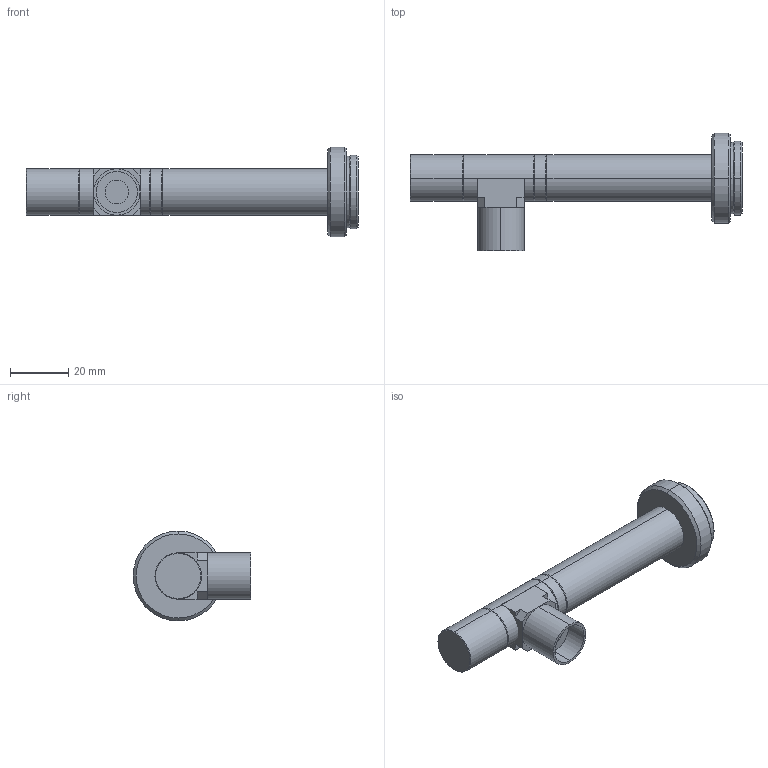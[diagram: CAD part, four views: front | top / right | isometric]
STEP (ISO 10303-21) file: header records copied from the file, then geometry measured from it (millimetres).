
FILE_DESCRIPTION (( 'STEP AP203' ), '1' );
FILE_NAME ('VS-TC10-65CO.STEP', '2019-03-14T08:13:00', ( '' ), ( '' ), 'SwSTEP 2.0', 'SolidWorks 2018', '' );
FILE_SCHEMA (( 'CONFIG_CONTROL_DESIGN' ));
Length unit declared in the file: millimetre
Products named in the file (1): VS-TC10-65CO
Bounding box: 114.4 x 40.5 x 31 mm (x, y, z)
Volume: 31670.8 mm3; surface area: 10048.3 mm2
Topology: 2 solids, 2 shells, 66 faces, 138 edges, 80 vertices
Faces by surface type: plane 24, cone 22, cylinder 20
Entity records: 1805 total; most frequent: DIRECTION 328, CARTESIAN_POINT 285, ORIENTED_EDGE 276, EDGE_CURVE 138, AXIS2_PLACEMENT_3D 123, LINE 82, VECTOR 82, VERTEX_POINT 80
